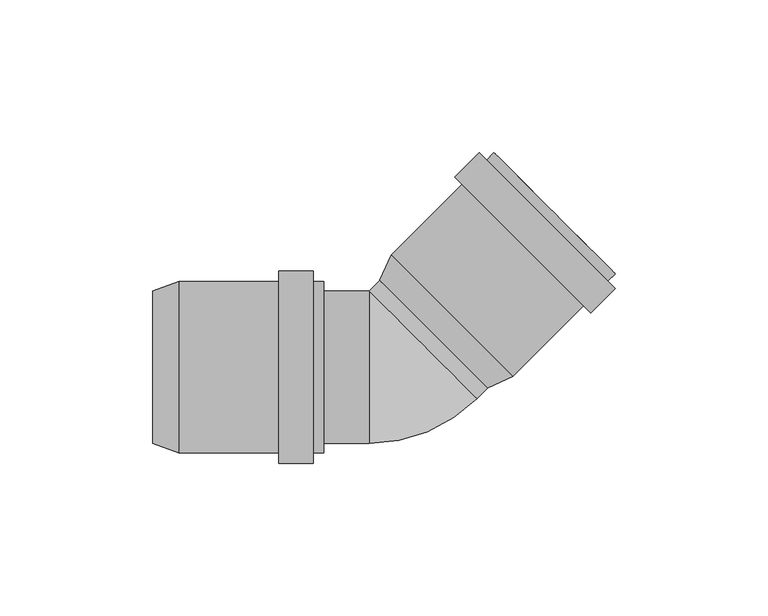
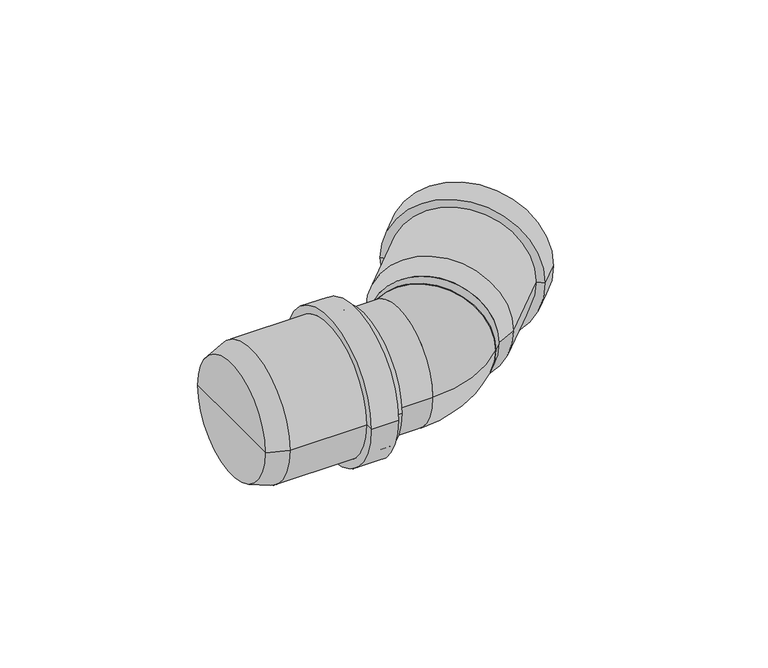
"""IFC4 building model written with IfcOpenShell, lengths in millimetres: pipe fitting geometry, pf_HTB : pf_HTB."""

from ifc_helpers import new_model, si_unit, point, frame, origin, origin_2d, place, context, project, spatial, polyline, circle_curve, ellipse_curve, trimmed, segment, composite_curve, outline, extrude, source, transform, mapped, element, save
from ifc_brep_helpers import plane_surface, cylinder_surface, revolved_surface, advanced_brep


def pipe_fitting_b5d70c9b(model_context):
    return source(origin(), model_context, "Body", "SolidModel", [
        advanced_brep(
        [(28.4964033, -6.8589358, 0.0), (-6.8589358, 28.4964033, 0.0), (-3.0405592, 36.6988419, 0.0), (36.6988419, -3.0405592, 0.0), (10.8187338, 10.8187338, 0.0), (70.286414, 30.5470129, 0.0), (30.5470129, 70.286414, 0.0), (32.739044, 68.094383, 0.0), (68.094383, 32.739044, 0.0), (67.882251, 28.1428499, 0.0), (28.1428499, 67.882251, 0.0), (70.286414, 25.7386868, 0.0), (25.7386868, 70.286414, 0.0), (62.2253967, 17.6776695, 0.0), (17.6776695, 62.2253967, 0.0), (59.8212337, 20.0818326, 0.0), (20.0818326, 59.8212337, 0.0), (34.5068109, -0.8485281, 0.0), (-0.8485281, 34.5068109, 0.0), (16.8291414, 16.8291414, 0.0)],
        [
            (0, 1, circle_curve(frame((10.8187338, 10.8187338, 0.0), z_axis=(0.7071067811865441, 0.707106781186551, 0.0), x_axis=(-0.707106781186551, 0.7071067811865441, 0.0)), 25.0)),
            (1, 2),
            (2, 3, circle_curve(frame((16.8291414, 16.8291414, 0.0), z_axis=(-0.7071067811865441, -0.707106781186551, 0.0), x_axis=(-0.707106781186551, 0.7071067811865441, 0.0)), 28.1)),
            (3, 0),
            (1, 0, circle_curve(frame((10.8187338, 10.8187338, 0.0), z_axis=(0.7071067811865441, 0.707106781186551, 0.0), x_axis=(-0.707106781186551, 0.7071067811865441, 0.0)), 25.0)),
            (3, 2, circle_curve(frame((16.8291414, 16.8291414, 0.0), z_axis=(-0.7071067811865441, -0.707106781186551, 0.0), x_axis=(-0.707106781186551, 0.7071067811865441, 0.0)), 28.1)),
            (4, 1),
            (0, 4),
            (5, 6, circle_curve(frame((50.4167135, 50.4167135, 0.0), z_axis=(0.7071067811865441, 0.707106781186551, 0.0), x_axis=(-0.707106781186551, 0.7071067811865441, 0.0)), 28.1)),
            (6, 7),
            (7, 8, circle_curve(frame((50.4167135, 50.4167135, 0.0), z_axis=(-0.7071067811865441, -0.707106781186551, 0.0), x_axis=(-0.707106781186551, 0.7071067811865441, 0.0)), 25.0)),
            (8, 5),
            (6, 5, circle_curve(frame((50.4167135, 50.4167135, 0.0), z_axis=(0.7071067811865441, 0.707106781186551, 0.0), x_axis=(-0.707106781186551, 0.7071067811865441, 0.0)), 28.1)),
            (8, 7, circle_curve(frame((50.4167135, 50.4167135, 0.0), z_axis=(-0.7071067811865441, -0.707106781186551, 0.0), x_axis=(-0.707106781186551, 0.7071067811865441, 0.0)), 25.0)),
            (9, 10, circle_curve(frame((48.0125504, 48.0125504, 0.0), z_axis=(0.7071067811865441, 0.707106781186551, 0.0), x_axis=(-0.707106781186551, 0.7071067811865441, 0.0)), 28.1)),
            (10, 6),
            (5, 9),
            (10, 9, circle_curve(frame((48.0125504, 48.0125504, 0.0), z_axis=(0.7071067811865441, 0.707106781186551, 0.0), x_axis=(-0.707106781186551, 0.7071067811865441, 0.0)), 28.1)),
            (11, 12, circle_curve(frame((48.0125504, 48.0125504, 0.0), z_axis=(0.7071067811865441, 0.707106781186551, 0.0), x_axis=(-0.707106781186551, 0.7071067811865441, 0.0)), 31.5)),
            (12, 10),
            (9, 11),
            (12, 11, circle_curve(frame((48.0125504, 48.0125504, 0.0), z_axis=(0.7071067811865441, 0.707106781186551, 0.0), x_axis=(-0.707106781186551, 0.7071067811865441, 0.0)), 31.5)),
            (13, 14, circle_curve(frame((39.9515331, 39.9515331, 0.0), z_axis=(0.7071067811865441, 0.707106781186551, 0.0), x_axis=(-0.707106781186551, 0.7071067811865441, 0.0)), 31.5)),
            (14, 12),
            (11, 13),
            (14, 13, circle_curve(frame((39.9515331, 39.9515331, 0.0), z_axis=(0.7071067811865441, 0.707106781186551, 0.0), x_axis=(-0.707106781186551, 0.7071067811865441, 0.0)), 31.5)),
            (15, 16, circle_curve(frame((39.9515331, 39.9515331, 0.0), z_axis=(0.7071067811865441, 0.707106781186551, 0.0), x_axis=(-0.707106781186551, 0.7071067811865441, 0.0)), 28.1)),
            (16, 14),
            (13, 15),
            (16, 15, circle_curve(frame((39.9515331, 39.9515331, 0.0), z_axis=(0.7071067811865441, 0.707106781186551, 0.0), x_axis=(-0.707106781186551, 0.7071067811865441, 0.0)), 28.1)),
            (2, 16),
            (15, 3),
            (17, 18, circle_curve(frame((16.8291414, 16.8291414, 0.0), z_axis=(0.7071067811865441, 0.707106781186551, 0.0), x_axis=(-0.707106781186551, 0.7071067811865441, 0.0)), 25.0)),
            (18, 19),
            (19, 17),
            (18, 17, circle_curve(frame((16.8291414, 16.8291414, 0.0), z_axis=(0.7071067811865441, 0.707106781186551, 0.0), x_axis=(-0.707106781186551, 0.7071067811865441, 0.0)), 25.0)),
            (7, 18),
            (17, 8),
        ],
        [
            revolved_surface(polyline([(-3.0405592, 36.6988419, 0.0), (-6.8589358, 28.4964033, 0.0)]), (10.8187338, 10.8187338, 0.0), (-0.7071067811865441, -0.707106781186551, 0.0)),
            plane_surface(frame((10.8187338, 10.8187338, 0.0), z_axis=(-0.7071067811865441, -0.707106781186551, 0.0), x_axis=(-0.707106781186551, 0.7071067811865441, 0.0))),
            plane_surface(frame((50.4167135, 50.4167135, 0.0), z_axis=(0.7071067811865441, 0.707106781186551, 0.0), x_axis=(-0.707106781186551, 0.7071067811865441, 0.0))),
            cylinder_surface(frame((10.8187338, 10.8187338, 0.0), z_axis=(-0.7071067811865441, -0.707106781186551, 0.0), x_axis=(-0.707106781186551, 0.7071067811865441, 0.0)), 28.1),
            plane_surface(frame((48.0125504, 48.0125504, 0.0), z_axis=(0.7071067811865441, 0.707106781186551, 0.0), x_axis=(-0.707106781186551, 0.7071067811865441, 0.0))),
            cylinder_surface(frame((10.8187338, 10.8187338, 0.0), z_axis=(-0.7071067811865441, -0.707106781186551, 0.0), x_axis=(-0.707106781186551, 0.7071067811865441, 0.0)), 31.5),
            plane_surface(frame((39.9515331, 39.9515331, 0.0), z_axis=(-0.7071067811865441, -0.707106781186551, 0.0), x_axis=(-0.707106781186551, 0.7071067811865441, 0.0))),
            plane_surface(frame((16.8291414, 16.8291414, 0.0), z_axis=(0.7071067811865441, 0.707106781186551, 0.0), x_axis=(-0.707106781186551, 0.7071067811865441, 0.0))),
            revolved_surface(polyline([(-0.8485281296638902, 34.506810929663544, 0.0), (32.73904397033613, 68.09438302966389, 0.0)]), (10.8187338, 10.8187338, 0.0), (-0.7071067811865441, -0.707106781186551, 0.0)),
        ],
        [
            (0, [[1, 2, 3, 4]]),
            (0, [[5, -4, 6, -2]]),
            (1, [[7, -1, 8]]),
            (1, [[-8, -5, -7]]),
            (2, [[9, 10, 11, 12]]),
            (2, [[13, -12, 14, -10]]),
            (3, [[15, 16, -9, 17]]),
            (3, [[18, -17, -13, -16]]),
            (4, [[19, 20, -15, 21]]),
            (4, [[22, -21, -18, -20]]),
            (5, [[23, 24, -19, 25]]),
            (5, [[26, -25, -22, -24]]),
            (6, [[27, 28, -23, 29]]),
            (6, [[30, -29, -26, -28]]),
            (3, [[-3, 31, -27, 32]]),
            (3, [[-6, -32, -30, -31]]),
            (7, [[33, 34, 35]]),
            (7, [[36, -35, -34]]),
            (8, [[-11, 37, -33, 38]]),
            (8, [[-14, -38, -36, -37]]),
        ],
    ),
        advanced_brep(
        [(-81.2, -25.0, 0.0), (-81.2, 25.0, 0.0), (-72.7, 28.1, 0.0), (-72.7, -28.1, 0.0), (-81.2, 0.0, 0.0), (-25.2, -28.1, 0.0), (-25.2, 28.1, 0.0), (-25.2, 25.0, 0.0), (-25.2, -25.0, 0.0), (-28.6, -28.1, 0.0), (-28.6, 28.1, 0.0), (-28.6, -31.5, 0.0), (-28.6, 31.5, 0.0), (-40.0, -31.5, 0.0), (-40.0, 31.5, 0.0), (-40.0, -28.1, 0.0), (-40.0, 28.1, 0.0), (-72.7, -25.0, 0.0), (-72.7, 25.0, 0.0), (-72.7, 0.0, 0.0)],
        [
            (0, 1, circle_curve(frame((-81.2, 0.0, 0.0), z_axis=(1.0, 0.0, 0.0), x_axis=(0.0, 1.0, 0.0)), 25.0)),
            (1, 2),
            (2, 3, circle_curve(frame((-72.7, 0.0, 0.0), z_axis=(-1.0, 0.0, 0.0), x_axis=(0.0, 1.0, 0.0)), 28.1)),
            (3, 0),
            (1, 0, circle_curve(frame((-81.2, 0.0, 0.0), z_axis=(1.0, 0.0, 0.0), x_axis=(0.0, 1.0, 0.0)), 25.0)),
            (3, 2, circle_curve(frame((-72.7, 0.0, 0.0), z_axis=(-1.0, 0.0, 0.0), x_axis=(0.0, 1.0, 0.0)), 28.1)),
            (4, 1),
            (0, 4),
            (5, 6, circle_curve(frame((-25.2, 0.0, 0.0), z_axis=(1.0, 0.0, 0.0), x_axis=(0.0, 1.0, 0.0)), 28.1)),
            (6, 7),
            (7, 8, circle_curve(frame((-25.2, 0.0, 0.0), z_axis=(-1.0, 0.0, 0.0), x_axis=(0.0, 1.0, 0.0)), 25.0)),
            (8, 5),
            (6, 5, circle_curve(frame((-25.2, 0.0, 0.0), z_axis=(1.0, 0.0, 0.0), x_axis=(0.0, 1.0, 0.0)), 28.1)),
            (8, 7, circle_curve(frame((-25.2, 0.0, 0.0), z_axis=(-1.0, 0.0, 0.0), x_axis=(0.0, 1.0, 0.0)), 25.0)),
            (9, 10, circle_curve(frame((-28.6, 0.0, 0.0), z_axis=(1.0, 0.0, 0.0), x_axis=(0.0, 1.0, 0.0)), 28.1)),
            (10, 6),
            (5, 9),
            (10, 9, circle_curve(frame((-28.6, 0.0, 0.0), z_axis=(1.0, 0.0, 0.0), x_axis=(0.0, 1.0, 0.0)), 28.1)),
            (11, 12, circle_curve(frame((-28.6, 0.0, 0.0), z_axis=(1.0, 0.0, 0.0), x_axis=(0.0, 1.0, 0.0)), 31.5)),
            (12, 10),
            (9, 11),
            (12, 11, circle_curve(frame((-28.6, 0.0, 0.0), z_axis=(1.0, 0.0, 0.0), x_axis=(0.0, 1.0, 0.0)), 31.5)),
            (13, 14, circle_curve(frame((-40.0, 0.0, 0.0), z_axis=(1.0, 0.0, 0.0), x_axis=(0.0, 1.0, 0.0)), 31.5)),
            (14, 12),
            (11, 13),
            (14, 13, circle_curve(frame((-40.0, 0.0, 0.0), z_axis=(1.0, 0.0, 0.0), x_axis=(0.0, 1.0, 0.0)), 31.5)),
            (15, 16, circle_curve(frame((-40.0, 0.0, 0.0), z_axis=(1.0, 0.0, 0.0), x_axis=(0.0, 1.0, 0.0)), 28.1)),
            (16, 14),
            (13, 15),
            (16, 15, circle_curve(frame((-40.0, 0.0, 0.0), z_axis=(1.0, 0.0, 0.0), x_axis=(0.0, 1.0, 0.0)), 28.1)),
            (2, 16),
            (15, 3),
            (17, 18, circle_curve(frame((-72.7, 0.0, 0.0), z_axis=(1.0, 0.0, 0.0), x_axis=(0.0, 1.0, 0.0)), 25.0)),
            (18, 19),
            (19, 17),
            (18, 17, circle_curve(frame((-72.7, 0.0, 0.0), z_axis=(1.0, 0.0, 0.0), x_axis=(0.0, 1.0, 0.0)), 25.0)),
            (7, 18),
            (17, 8),
        ],
        [
            revolved_surface(polyline([(-72.7, 28.1, 0.0), (-81.2, 25.0, 0.0)]), (-81.2, 0.0, 0.0), (-1.0, 0.0, 0.0)),
            plane_surface(frame((-81.2, 0.0, 0.0), z_axis=(-1.0, 0.0, 0.0), x_axis=(0.0, 1.0, 0.0))),
            plane_surface(frame((-25.2, 0.0, 0.0), z_axis=(1.0, 0.0, 0.0), x_axis=(0.0, 1.0, 0.0))),
            cylinder_surface(frame((-81.2, 0.0, 0.0), z_axis=(-1.0, 0.0, 0.0), x_axis=(0.0, 1.0, 0.0)), 28.1),
            plane_surface(frame((-28.6, 0.0, 0.0), z_axis=(1.0, 0.0, 0.0), x_axis=(0.0, 1.0, 0.0))),
            cylinder_surface(frame((-81.2, 0.0, 0.0), z_axis=(-1.0, 0.0, 0.0), x_axis=(0.0, 1.0, 0.0)), 31.5),
            plane_surface(frame((-40.0, 0.0, 0.0), z_axis=(-1.0, 0.0, 0.0), x_axis=(0.0, 1.0, 0.0))),
            plane_surface(frame((-72.7, 0.0, 0.0), z_axis=(1.0, 0.0, 0.0), x_axis=(0.0, 1.0, 0.0))),
            revolved_surface(polyline([(-72.7, 25.0, 0.0), (-25.200000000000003, 25.0, 0.0)]), (-81.2, 0.0, 0.0), (-1.0, 0.0, 0.0)),
        ],
        [
            (0, [[1, 2, 3, 4]]),
            (0, [[5, -4, 6, -2]]),
            (1, [[7, -1, 8]]),
            (1, [[-8, -5, -7]]),
            (2, [[9, 10, 11, 12]]),
            (2, [[13, -12, 14, -10]]),
            (3, [[15, 16, -9, 17]]),
            (3, [[18, -17, -13, -16]]),
            (4, [[19, 20, -15, 21]]),
            (4, [[22, -21, -18, -20]]),
            (5, [[23, 24, -19, 25]]),
            (5, [[26, -25, -22, -24]]),
            (6, [[27, 28, -23, 29]]),
            (6, [[30, -29, -26, -28]]),
            (3, [[-3, 31, -27, 32]]),
            (3, [[-6, -32, -30, -31]]),
            (7, [[33, 34, 35]]),
            (7, [[36, -35, -34]]),
            (8, [[-11, 37, -33, 38]]),
            (8, [[-14, -38, -36, -37]]),
        ],
    ),
        extrude(outline(composite_curve([segment(trimmed(circle_curve(origin_2d(), 25.0), [point((0.0, -25.0))], [point((0.0, 25.0))], False, "CARTESIAN"), True, "CONTINUOUS"), segment(trimmed(circle_curve(origin_2d(), 25.0), [point((0.0, 25.0))], [point((0.0, -25.0))], False, "CARTESIAN"), True, "CONTINUOUS")], self_intersect=False)), frame((7.3223305, 7.3223305, 0.0), z_axis=(0.7071067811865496, 0.7071067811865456, 0.0), x_axis=(0.0, 0.0, 1.0)), (0.0, 0.0, 1.0), 13.4446609),
        extrude(outline(composite_curve([segment(trimmed(circle_curve(origin_2d(), 25.0), [point((-25.0, 0.0))], [point((25.0, 0.0))], False, "CARTESIAN"), True, "CONTINUOUS"), segment(trimmed(circle_curve(origin_2d(), 25.0), [point((25.0, 0.0))], [point((-25.0, 0.0))], False, "CARTESIAN"), True, "CONTINUOUS")], self_intersect=False)), frame((-72.7, 0.0, 0.0), z_axis=(1.0, 0.0, 0.0), x_axis=(0.0, 1.0, 0.0)), (0.0, 0.0, 1.0), 62.3446609),
        advanced_brep(
        [(-10.3553391, -25.0, 0.0), (-10.3553391, 25.0, 0.0), (25.0, -10.3553391, 0.0)],
        [
            (0, 1, circle_curve(frame((-10.3553391, 0.0, 0.0), z_axis=(-1.0, 0.0, 0.0), x_axis=(0.0, 1.0, 0.0)), 25.0)),
            (1, 0, circle_curve(frame((-10.3553391, 0.0, 0.0), z_axis=(-1.0, 0.0, 0.0), x_axis=(0.0, 1.0, 0.0)), 25.0)),
            (2, 1, circle_curve(frame((7.3223305, 7.3223305, 0.0), z_axis=(0.7071067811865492, 0.7071067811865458, 0.0), x_axis=(-0.7071067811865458, 0.7071067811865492, 0.0)), 25.0)),
            (1, 2, circle_curve(frame((7.3223305, 7.3223305, 0.0), z_axis=(0.7071067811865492, 0.7071067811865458, 0.0), x_axis=(-0.7071067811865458, 0.7071067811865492, 0.0)), 25.0)),
            (2, 0, circle_curve(frame((-10.3553391, 25.0, 0.0), z_axis=(0.0, 0.0, -1.0), x_axis=(0.0, -1.0, 0.0)), 50.0)),
        ],
        [
            plane_surface(frame((-10.3553391, 25.0, -14.8), z_axis=(-1.0, 0.0, 0.0), x_axis=(0.0, -1.0, 0.0))),
            plane_surface(frame((-10.3553391, 25.0, -14.8), z_axis=(0.7071067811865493, 0.7071067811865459, 0.0), x_axis=(0.7071067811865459, -0.7071067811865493, 0.0))),
            revolved_surface(trimmed(ellipse_curve(frame((-10.3553391, 0.0, 0.0), z_axis=(1.0, 0.0, 0.0), x_axis=(0.0, 1.0, 0.0)), 25.0, 25.0), [point((-10.3553391, -25.0, 0.0))], [point((-10.3553391, 25.0, 0.0))], True, "CARTESIAN"), (-10.3553391, 25.0, -14.8), (0.0, 0.0, -1.0)),
            revolved_surface(trimmed(ellipse_curve(frame((-10.3553391, 0.0, 0.0), z_axis=(1.0, 0.0, 0.0), x_axis=(0.0, 1.0, 0.0)), 25.0, 25.0), [point((-10.3553391, 25.0, 0.0))], [point((-10.3553391, -25.0, 0.0))], True, "CARTESIAN"), (-10.3553391, 25.0, -14.8), (0.0, 0.0, -1.0)),
        ],
        [
            (0, [[1, 2]]),
            (1, [[3, 4]]),
            (2, [[5, -2, -3]]),
            (3, [[-1, -5, -4]]),
        ],
    ),
    ])


if __name__ == "__main__":
    model = new_model("IFC4")
    model_context = context("Model", 3, world=origin())
    ifc_project = project(units=[si_unit("LENGTHUNIT", "METRE", prefix="MILLI")], contexts=[model_context])
    site = spatial("IfcSite", under=ifc_project)
    building = spatial("IfcBuilding", under=site)
    placement = place(None, origin())
    pipe_fitting_shape = pipe_fitting_b5d70c9b(model_context)
    element("IfcPipeFitting", 1, ObjectType="pf_HTB : pf_HTB", at=placement, inside=building, context=model_context, shape_type="MappedRepresentation", body=[
        mapped(pipe_fitting_shape, transform((0.0, 0.0, 0.0), x_axis=(1.0, 0.0, 0.0), y_axis=(0.0, 1.0, 0.0), z_axis=(0.0, 0.0, 1.0))),
    ])
    save(model, "model.ifc")
